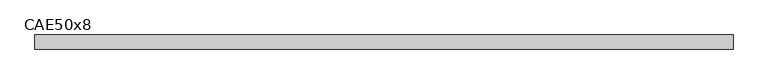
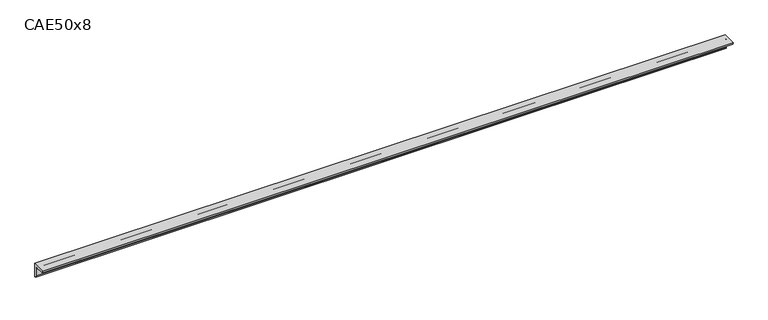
"""IFC4 building model written with IfcOpenShell, lengths in millimetres: beam geometry, L-Cornières : CAE50x8."""

from ifc_helpers import new_model, si_unit, point, frame, frame_2d, origin, place, context, project, spatial, polyline, circle_curve, trimmed, segment, composite_curve, outline, extrude, source, transform, mapped, element, save


def cae50x8_455d5d37(model_context):
    return source(origin(), model_context, "Body", "SweptSolid", [
        extrude(outline(composite_curve([segment(polyline([(15.2, 15.2), (15.2, -34.8)]), True, "CONTINUOUS"), segment(trimmed(circle_curve(frame_2d((15.2, -26.8)), 8.0), [point((15.2, -34.8))], [point((7.2, -26.8))], False, "CARTESIAN"), True, "CONTINUOUS"), segment(polyline([(7.2, -26.8), (7.2, -0.8)]), True, "CONTINUOUS"), segment(trimmed(circle_curve(frame_2d((-0.8, -0.8)), 8.0), [point((7.2, -0.8))], [point((-0.8, 7.2))], True, "CARTESIAN"), True, "CONTINUOUS"), segment(polyline([(-0.8, 7.2), (-26.8, 7.2)]), True, "CONTINUOUS"), segment(trimmed(circle_curve(frame_2d((-26.8, 15.2)), 8.0), [point((-26.8, 7.2))], [point((-34.8, 15.2))], False, "CARTESIAN"), True, "CONTINUOUS"), segment(polyline([(-34.8, 15.2), (15.2, 15.2)]), True, "CONTINUOUS")], self_intersect=False)), frame((-1265.5, 0.0, 0.0), z_axis=(1.0, 0.0, 0.0), x_axis=(0.0, 1.0, 0.0)), (0.0, 0.0, 1.0), 2473.0),
    ])


if __name__ == "__main__":
    model = new_model("IFC4")
    model_context = context("Model", 3, world=origin())
    ifc_project = project(units=[si_unit("LENGTHUNIT", "METRE", prefix="MILLI")], contexts=[model_context])
    site = spatial("IfcSite", under=ifc_project)
    building = spatial("IfcBuilding", under=site)
    placement = place(None, origin())
    cae50x8_shape = cae50x8_455d5d37(model_context)
    element("IfcBeam", 1, ObjectType="L-Cornières : CAE50x8", at=placement, inside=building, context=model_context, shape_type="MappedRepresentation", body=[
        mapped(cae50x8_shape, transform((0.0, 0.0, 0.0), x_axis=(1.0, 0.0, 0.0), y_axis=(0.0, 1.0, 0.0), z_axis=(0.0, 0.0, 1.0))),
    ])
    save(model, "model.ifc")
